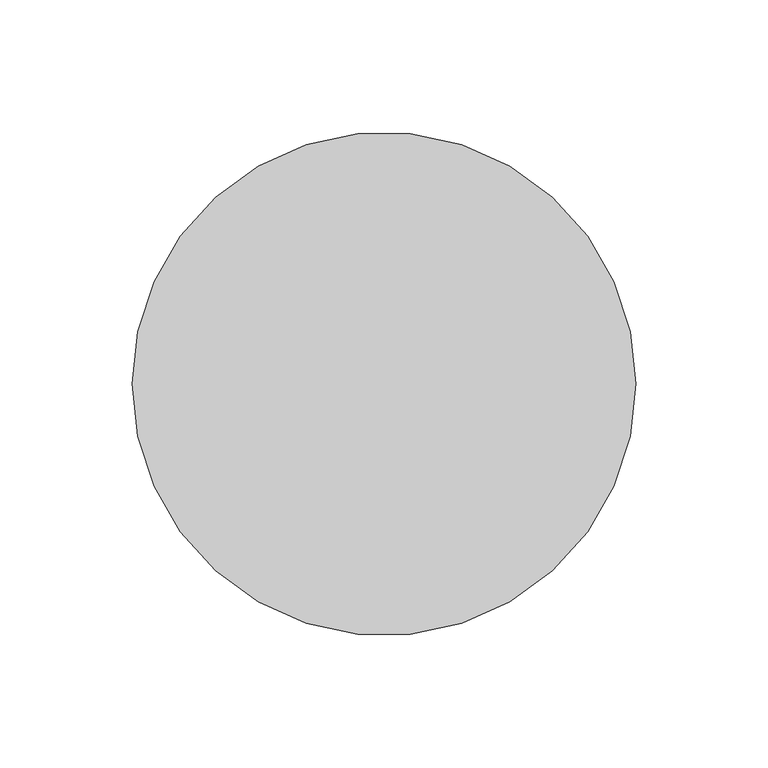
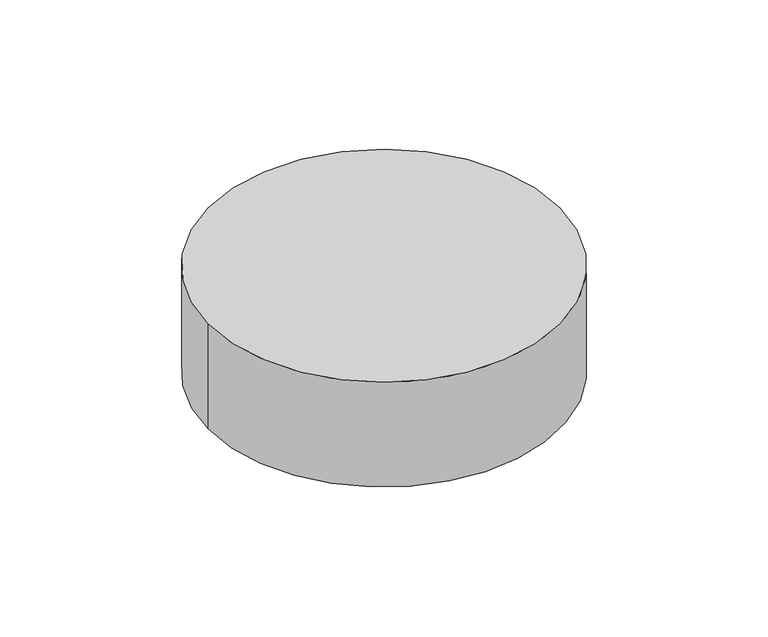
"""IFC4 building model written with IfcOpenShell, lengths in millimetres: light fixture geometry, GENILED_Светильник светодиодный_Ceiling Накладной : Сейлинг накладного монтажа d190 h60 20Вт 90Ra Белый."""

from ifc_helpers import new_model, si_unit, point, frame, origin, origin_with_axes, origin_2d, place, context, project, spatial, polyline, circle_curve, trimmed, segment, composite_curve, outline, extrude, source, transform, mapped, element, save
from ifc_brep_helpers import plane_surface, cylinder_surface, revolved_surface, advanced_brep


def light_fixture_1c399b53(model_context):
    return source(origin(), model_context, "Body", "SolidModel", [
        advanced_brep(
        [(-95.0, 0.0, 60.0), (95.0, 0.0, 60.0), (-95.0, 0.0, 0.0), (95.0, 0.0, 0.0), (-75.0, 0.0, 0.0), (75.0, 0.0, 0.0), (-75.0, 0.0, 4.0), (75.0, 0.0, 4.0)],
        [
            (0, 1, circle_curve(frame((0.0, 0.0, 60.0), z_axis=(0.0, 0.0, 1.0), x_axis=(1.0, 0.0, 0.0)), 95.0)),
            (1, 0, circle_curve(frame((0.0, 0.0, 60.0), z_axis=(0.0, 0.0, 1.0), x_axis=(1.0, 0.0, 0.0)), 95.0)),
            (2, 3, circle_curve(frame((0.0, 0.0, 0.0), z_axis=(0.0, 0.0, -1.0), x_axis=(1.0, 0.0, 0.0)), 95.0)),
            (3, 2, circle_curve(frame((0.0, 0.0, 0.0), z_axis=(0.0, 0.0, -1.0), x_axis=(1.0, 0.0, 0.0)), 95.0)),
            (4, 5, circle_curve(origin_with_axes(), 75.0)),
            (5, 4, circle_curve(origin_with_axes(), 75.0)),
            (0, 2),
            (3, 1),
            (6, 7, circle_curve(frame((0.0, 0.0, 4.0), z_axis=(0.0, 0.0, -1.0), x_axis=(1.0, 0.0, 0.0)), 75.0)),
            (7, 6, circle_curve(frame((0.0, 0.0, 4.0), z_axis=(0.0, 0.0, -1.0), x_axis=(1.0, 0.0, 0.0)), 75.0)),
            (7, 5),
            (4, 6),
        ],
        [
            plane_surface(frame((95.0, 0.0, 60.0), z_axis=(0.0, 0.0, 1.0), x_axis=(0.0, 1.0, 0.0))),
            plane_surface(frame((95.0, 0.0, 0.0), z_axis=(0.0, 0.0, -1.0), x_axis=(0.0, -1.0, 0.0))),
            cylinder_surface(origin_with_axes(), 95.0),
            plane_surface(frame((75.0, 0.0, 4.0), z_axis=(0.0, 0.0, -1.0), x_axis=(0.0, 1.0, 0.0))),
            revolved_surface(polyline([(75.0, 0.0, 4.0), (75.0, 0.0, 0.0)]), (0.0, 0.0, 0.0), (0.0, 0.0, 1.0)),
        ],
        [
            (0, [[1, 2]]),
            (1, [[3, 4], [5, 6]]),
            (2, [[-1, 7, -4, 8]]),
            (2, [[-2, -8, -3, -7]]),
            (3, [[9, 10]]),
            (4, [[-10, 11, -5, 12]]),
            (4, [[-9, -12, -6, -11]]),
        ],
    ),
        extrude(outline(composite_curve([segment(trimmed(circle_curve(origin_2d(), 75.0), [point((-75.0, 0.0))], [point((75.0, 0.0))], False, "CARTESIAN"), True, "CONTINUOUS"), segment(trimmed(circle_curve(origin_2d(), 75.0), [point((75.0, 0.0))], [point((-75.0, 0.0))], False, "CARTESIAN"), True, "CONTINUOUS")], self_intersect=False)), frame((0.0, 0.0, 2.0), z_axis=(0.0, 0.0, 1.0), x_axis=(1.0, 0.0, 0.0)), (0.0, 0.0, 1.0), 2.0),
    ])


if __name__ == "__main__":
    model = new_model("IFC4")
    model_context = context("Model", 3, world=origin())
    ifc_project = project(units=[si_unit("LENGTHUNIT", "METRE", prefix="MILLI")], contexts=[model_context])
    site = spatial("IfcSite", under=ifc_project)
    building = spatial("IfcBuilding", under=site)
    placement = place(None, origin())
    light_fixture_shape = light_fixture_1c399b53(model_context)
    element("IfcLightFixture", 1, ObjectType="GENILED_Светильник светодиодный_Ceiling Накладной : Сейлинг накладного монтажа d190 h60 20Вт 90Ra Белый", at=placement, inside=building, context=model_context, shape_type="MappedRepresentation", body=[
        mapped(light_fixture_shape, transform((0.0, 0.0, 0.0), x_axis=(1.0, 0.0, 0.0), y_axis=(0.0, 1.0, 0.0), z_axis=(0.0, 0.0, 1.0))),
    ])
    save(model, "model.ifc")
